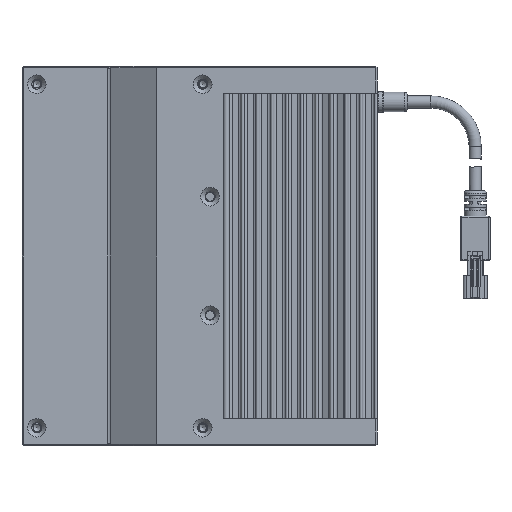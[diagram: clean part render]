
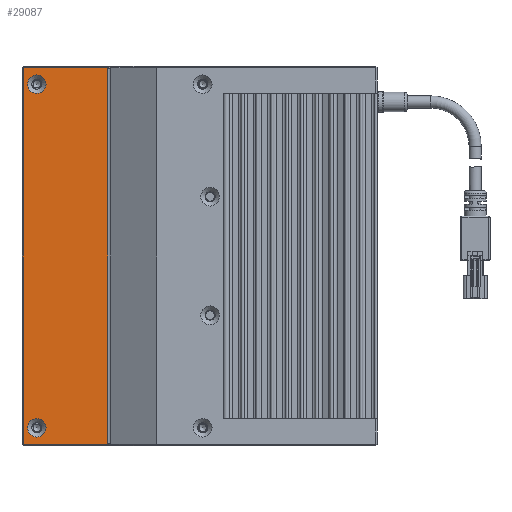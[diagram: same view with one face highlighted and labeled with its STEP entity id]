
A CAD part, left-side view. The second image highlights one B-rep face of the part: STEP entity #29087.
In plain terms, the highlighted planar face has unit normal (-1, 0, 0).
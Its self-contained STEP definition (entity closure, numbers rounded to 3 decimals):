
#138 = EDGE_CURVE ( 'NONE', #8803, #17343, #33127, .T. ) ;
#587 = CARTESIAN_POINT ( 'NONE',  ( -15.462, -7.561, 120. ) ) ;
#1020 = FACE_OUTER_BOUND ( 'NONE', #21829, .T. ) ;
#1168 = EDGE_CURVE ( 'NONE', #8803, #28922, #20448, .T. ) ;
#2475 = DIRECTION ( 'NONE',  ( 0., 0., 1. ) ) ;
#2609 = CIRCLE ( 'NONE', #32820, 3.15 ) ;
#3047 = VECTOR ( 'NONE', #32433, 1000. ) ;
#5569 = ORIENTED_EDGE ( 'NONE', *, *, #12943, .F. ) ;
#6332 = DIRECTION ( 'NONE',  ( 1., 0., 0. ) ) ;
#6614 = AXIS2_PLACEMENT_3D ( 'NONE', #15618, #17953, #2475 ) ;
#6677 = DIRECTION ( 'NONE',  ( 0., 0., -1. ) ) ;
#7568 = CARTESIAN_POINT ( 'NONE',  ( -15.462, 16.939, 244.65 ) ) ;
#8696 = FACE_BOUND ( 'NONE', #9934, .T. ) ;
#8803 = VERTEX_POINT ( 'NONE', #32728 ) ;
#9934 = EDGE_LOOP ( 'NONE', ( #21565 ) ) ;
#10844 = VECTOR ( 'NONE', #16233, 1000. ) ;
#10925 = CIRCLE ( 'NONE', #6614, 3.15 ) ;
#11268 = DIRECTION ( 'NONE',  ( -1., 0., 0. ) ) ;
#11440 = PLANE ( 'NONE',  #23024 ) ;
#12943 = EDGE_CURVE ( 'NONE', #28136, #28922, #23520, .T. ) ;
#12947 = EDGE_CURVE ( 'NONE', #27832, #27832, #10925, .T. ) ;
#13678 = LINE ( 'NONE', #587, #10844 ) ;
#14615 = CARTESIAN_POINT ( 'NONE',  ( -15.462, -6.987, 245.5 ) ) ;
#15618 = CARTESIAN_POINT ( 'NONE',  ( -15.462, 16.939, 241.5 ) ) ;
#15689 = EDGE_LOOP ( 'NONE', ( #31370 ) ) ;
#15907 = CARTESIAN_POINT ( 'NONE',  ( -15.462, 21.439, 120. ) ) ;
#16233 = DIRECTION ( 'NONE',  ( 0., 1., 0. ) ) ;
#17343 = VERTEX_POINT ( 'NONE', #30991 ) ;
#17953 = DIRECTION ( 'NONE',  ( -1., 0., 0. ) ) ;
#18634 = VECTOR ( 'NONE', #25650, 1000. ) ;
#19279 = CARTESIAN_POINT ( 'NONE',  ( -15.462, 16.939, 125.5 ) ) ;
#20448 = LINE ( 'NONE', #24580, #3047 ) ;
#21565 = ORIENTED_EDGE ( 'NONE', *, *, #29956, .F. ) ;
#21829 = EDGE_LOOP ( 'NONE', ( #5569, #21974, #33174, #23171 ) ) ;
#21974 = ORIENTED_EDGE ( 'NONE', *, *, #28079, .F. ) ;
#22905 = FACE_BOUND ( 'NONE', #15689, .T. ) ;
#23024 = AXIS2_PLACEMENT_3D ( 'NONE', #27037, #6332, #6677 ) ;
#23171 = ORIENTED_EDGE ( 'NONE', *, *, #1168, .T. ) ;
#23372 = CARTESIAN_POINT ( 'NONE',  ( -15.462, 21.439, 245.5 ) ) ;
#23520 = LINE ( 'NONE', #23372, #18634 ) ;
#23610 = CARTESIAN_POINT ( 'NONE',  ( -15.462, 16.939, 128.65 ) ) ;
#24580 = CARTESIAN_POINT ( 'NONE',  ( -15.462, -7.561, 247. ) ) ;
#25650 = DIRECTION ( 'NONE',  ( 0., 0., 1. ) ) ;
#26588 = VECTOR ( 'NONE', #32962, 1000. ) ;
#27037 = CARTESIAN_POINT ( 'NONE',  ( -15.462, -7.561, 245.5 ) ) ;
#27088 = DIRECTION ( 'NONE',  ( 0., 0., 1. ) ) ;
#27832 = VERTEX_POINT ( 'NONE', #7568 ) ;
#28079 = EDGE_CURVE ( 'NONE', #17343, #28136, #13678, .T. ) ;
#28136 = VERTEX_POINT ( 'NONE', #15907 ) ;
#28922 = VERTEX_POINT ( 'NONE', #31283 ) ;
#29087 = ADVANCED_FACE ( 'NONE', ( #8696, #22905, #1020 ), #11440, .F. ) ;
#29956 = EDGE_CURVE ( 'NONE', #31487, #31487, #2609, .T. ) ;
#30991 = CARTESIAN_POINT ( 'NONE',  ( -15.462, -6.987, 120. ) ) ;
#31283 = CARTESIAN_POINT ( 'NONE',  ( -15.462, 21.439, 247. ) ) ;
#31370 = ORIENTED_EDGE ( 'NONE', *, *, #12947, .F. ) ;
#31487 = VERTEX_POINT ( 'NONE', #23610 ) ;
#32433 = DIRECTION ( 'NONE',  ( 0., 1., 0. ) ) ;
#32728 = CARTESIAN_POINT ( 'NONE',  ( -15.462, -6.987, 247. ) ) ;
#32820 = AXIS2_PLACEMENT_3D ( 'NONE', #19279, #11268, #27088 ) ;
#32962 = DIRECTION ( 'NONE',  ( 0., 0., -1. ) ) ;
#33127 = LINE ( 'NONE', #14615, #26588 ) ;
#33174 = ORIENTED_EDGE ( 'NONE', *, *, #138, .F. ) ;
